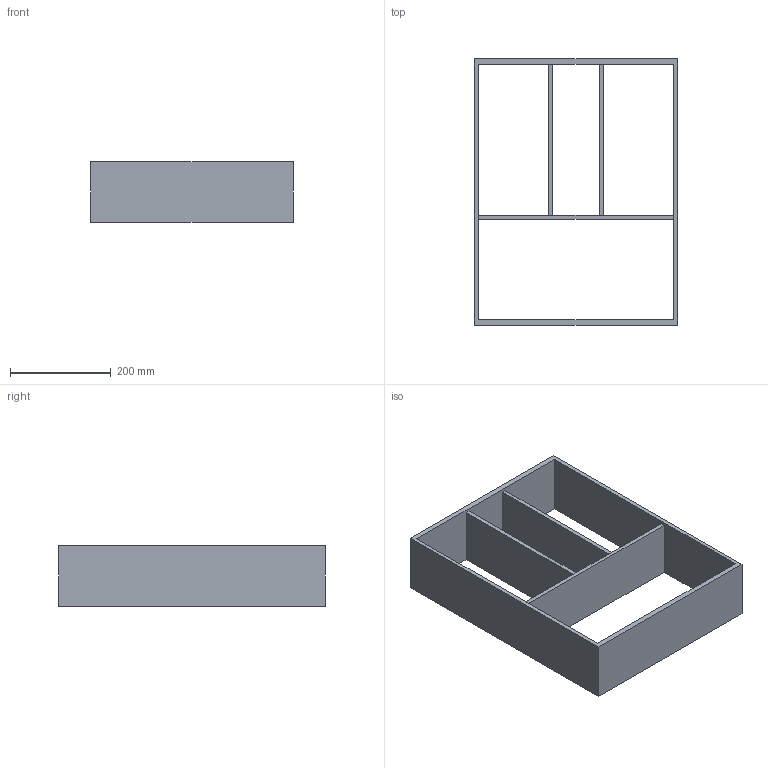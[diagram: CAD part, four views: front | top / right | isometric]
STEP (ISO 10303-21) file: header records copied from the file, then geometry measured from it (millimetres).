
FILE_DESCRIPTION (( 'STEP AP214' ), '1' );
FILE_NAME ('Vario Multi H120 NL550_B500_19 mm_Alu-Buche.step', '2010-10-08T09:47:38', ( 'grass' ), ( '' ), 'SwSTEP 2.0', 'SolidWorks 2010', '' );
FILE_SCHEMA (( 'AUTOMOTIVE_DESIGN' ));
Length unit declared in the file: millimetre
Products named in the file (1): Vario Multi H120 NL550_B500_19 mm_Alu-Buche
Bounding box: 402 x 529 x 120 mm (x, y, z)
Volume: 2933364.4 mm3; surface area: 706632.2 mm2
Topology: 1 solids, 1 shells, 22 faces, 60 edges, 40 vertices
Faces by surface type: plane 22
Entity records: 734 total; most frequent: CARTESIAN_POINT 123, ORIENTED_EDGE 120, DIRECTION 106, EDGE_CURVE 60, LINE 60, VECTOR 60, VERTEX_POINT 40, EDGE_LOOP 30
